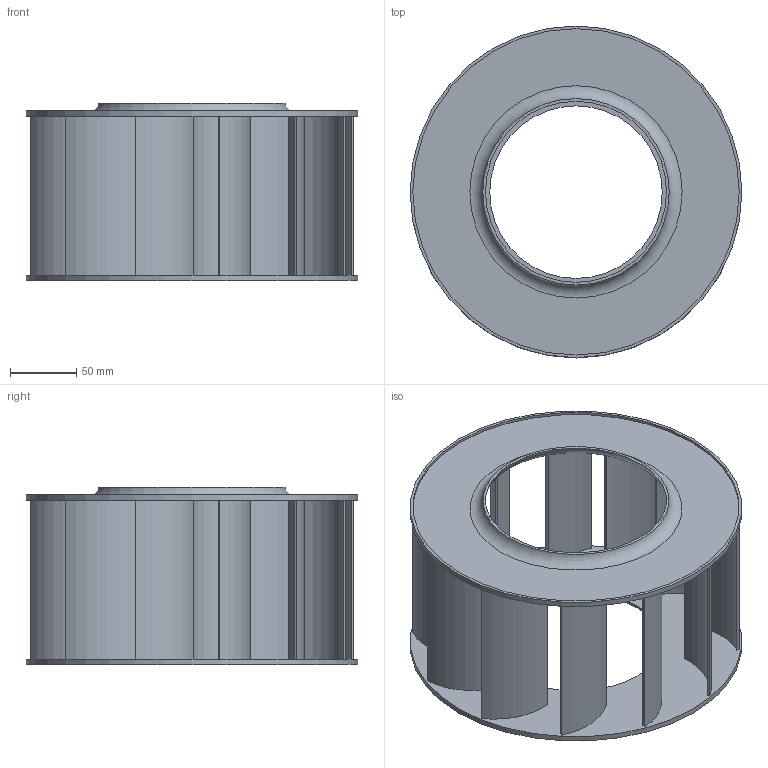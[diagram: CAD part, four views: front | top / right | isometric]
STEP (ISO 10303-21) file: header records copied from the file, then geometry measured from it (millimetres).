
FILE_DESCRIPTION(/* description */ (''),/* implementation_level */ '2;1');
FILE_NAME(/* name */ 'C:\2020_Kurs_Professional\R4 MES\Wirnik_201_MES.stp',/* time_stamp */ '2020-03-25T01:44:55+01:00',/* author */ ('ExpertBooks'),/* organization */ (''),/* preprocessor_version */ 'ST-DEVELOPER v18',/* originating_system */ 'Autodesk Inventor 2020',/* authorisation */ '');
FILE_SCHEMA (('AUTOMOTIVE_DESIGN { 1 0 10303 214 3 1 1 }'));
Length unit declared in the file: millimetre
Products named in the file (1): Wirnik_20_MES
Bounding box: 250 x 250 x 133.74 mm (x, y, z)
Volume: 308095.2 mm3; surface area: 316054.1 mm2
Topology: 1 solids, 1 shells, 62 faces, 172 edges, 117 vertices
Faces by surface type: plane 31, cylinder 29, torus 2
Full cylindrical faces by diameter (mm): 130 x1, 246 x2, 250 x2
Entity records: 2116 total; most frequent: DIRECTION 369, CARTESIAN_POINT 352, ORIENTED_EDGE 344, EDGE_CURVE 172, AXIS2_PLACEMENT_3D 134, VERTEX_POINT 117, LINE 101, VECTOR 101
